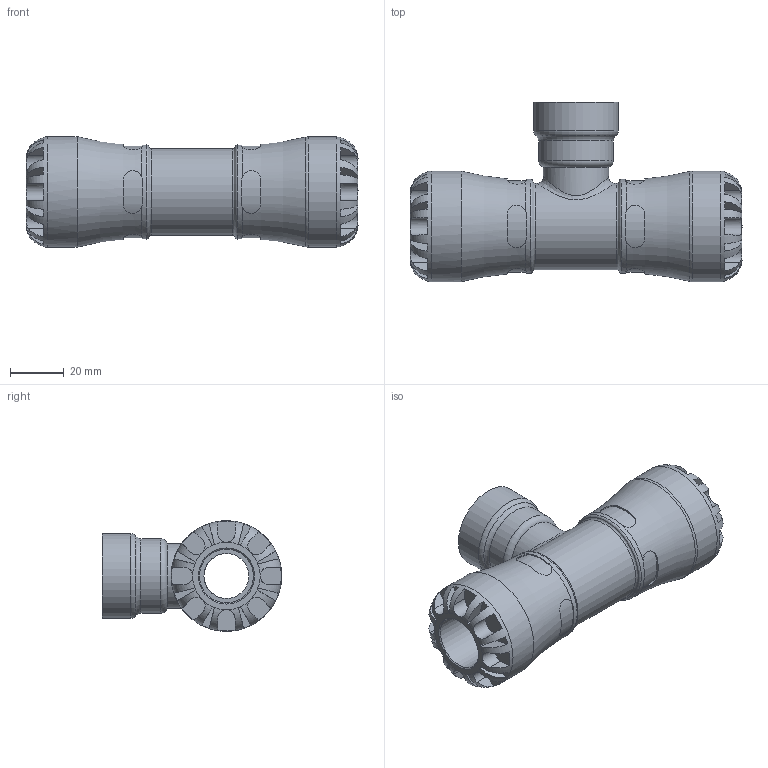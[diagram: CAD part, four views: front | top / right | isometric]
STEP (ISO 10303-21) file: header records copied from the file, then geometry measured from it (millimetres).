
FILE_DESCRIPTION(/* description */ ('PLASSON TEE WITH THREADED FEMALE OFFTAKE 20X3/4" SERIES 1'),/* implementation_level */ '2;1');
FILE_NAME(/* name */ 'C:\Dropbox\KIMPROJECTS-Inventor\99-16-3568-Processing\1014\101400020007_191400020007.ipt.stp',/* time_stamp */ '2017-01-30T09:06:13+02:00',/* author */ ('KIM'),/* organization */ (''),/* preprocessor_version */ 'ST-DEVELOPER v15.6',/* originating_system */ 'Autodesk Inventor 2015',/* authorisation */ '');
FILE_SCHEMA (('AUTOMOTIVE_DESIGN { 1 0 10303 214 3 1 1 }'));
Length unit declared in the file: millimetre
Products named in the file (1): 101400020007_191400020007
Bounding box: 123 x 66.5 x 41 mm (x, y, z)
Volume: 92919.4 mm3; surface area: 31000.6 mm2
Topology: 1 solids, 1 shells, 204 faces, 535 edges, 336 vertices
Faces by surface type: plane 120, cylinder 69, torus 12, cone 2, bspline 1
Full cylindrical faces by diameter (mm): 16.667 x1, 20 x2, 20.499 x1, 24.117 x2, 27.735 x1, 31.352 x1, 31.98 x1, 34.85 x2, 41 x2
Entity records: 7989 total; most frequent: CARTESIAN_POINT 3092, ORIENTED_EDGE 986, DIRECTION 936, EDGE_CURVE 493, AXIS2_PLACEMENT_3D 387, VERTEX_POINT 322, EDGE_LOOP 239, STYLED_ITEM 205
